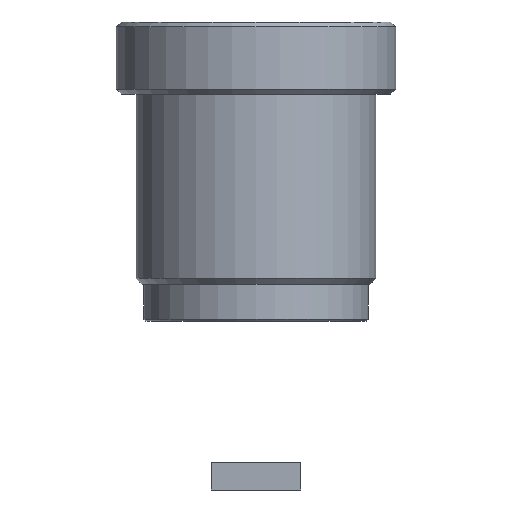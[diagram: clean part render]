
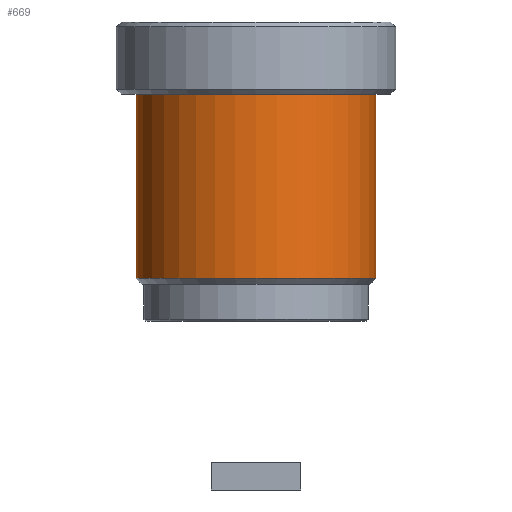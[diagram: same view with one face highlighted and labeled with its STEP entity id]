
A CAD part, front view. The second image highlights one B-rep face of the part: STEP entity #669.
In plain terms, the highlighted cylindrical face has radius 6 mm (diameter 12 mm), a partial arc.
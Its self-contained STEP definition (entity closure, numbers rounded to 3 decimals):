
#14 = VECTOR ( 'NONE', #943, 1000. ) ;
#21 = VERTEX_POINT ( 'NONE', #433 ) ;
#48 = CIRCLE ( 'NONE', #579, 6. ) ;
#95 = CARTESIAN_POINT ( 'NONE',  ( -6., 0., 11.38 ) ) ;
#97 = AXIS2_PLACEMENT_3D ( 'NONE', #908, #479, #779 ) ;
#124 = EDGE_CURVE ( 'NONE', #395, #658, #491, .T. ) ;
#185 = LINE ( 'NONE', #435, #312 ) ;
#191 = EDGE_LOOP ( 'NONE', ( #794, #419, #888, #597 ) ) ;
#230 = CARTESIAN_POINT ( 'NONE',  ( 0., 0., 11.38 ) ) ;
#264 = AXIS2_PLACEMENT_3D ( 'NONE', #230, #531, #825 ) ;
#268 = VERTEX_POINT ( 'NONE', #830 ) ;
#273 = EDGE_CURVE ( 'NONE', #21, #658, #411, .T. ) ;
#312 = VECTOR ( 'NONE', #450, 1000. ) ;
#362 = FACE_OUTER_BOUND ( 'NONE', #191, .T. ) ;
#376 = CARTESIAN_POINT ( 'NONE',  ( -6., 0., -10.271 ) ) ;
#395 = VERTEX_POINT ( 'NONE', #784 ) ;
#411 = CIRCLE ( 'NONE', #264, 6. ) ;
#419 = ORIENTED_EDGE ( 'NONE', *, *, #707, .T. ) ;
#421 = DIRECTION ( 'NONE',  ( 0., 0., 1. ) ) ;
#429 = CARTESIAN_POINT ( 'NONE',  ( 0., 0., 2.15 ) ) ;
#433 = CARTESIAN_POINT ( 'NONE',  ( 6., 0., 11.38 ) ) ;
#435 = CARTESIAN_POINT ( 'NONE',  ( 6., 0., -10.271 ) ) ;
#450 = DIRECTION ( 'NONE',  ( 0., 0., 1. ) ) ;
#479 = DIRECTION ( 'NONE',  ( 0., 0., 1. ) ) ;
#491 = LINE ( 'NONE', #376, #14 ) ;
#520 = CYLINDRICAL_SURFACE ( 'NONE', #97, 6. ) ;
#531 = DIRECTION ( 'NONE',  ( 0., 0., -1. ) ) ;
#564 = DIRECTION ( 'NONE',  ( 1., 0., 0. ) ) ;
#579 = AXIS2_PLACEMENT_3D ( 'NONE', #429, #421, #564 ) ;
#597 = ORIENTED_EDGE ( 'NONE', *, *, #273, .T. ) ;
#658 = VERTEX_POINT ( 'NONE', #95 ) ;
#669 = ADVANCED_FACE ( 'NONE', ( #362 ), #520, .T. ) ;
#707 = EDGE_CURVE ( 'NONE', #395, #268, #48, .T. ) ;
#779 = DIRECTION ( 'NONE',  ( 1., 0., 0. ) ) ;
#784 = CARTESIAN_POINT ( 'NONE',  ( -6., 0., 2.15 ) ) ;
#794 = ORIENTED_EDGE ( 'NONE', *, *, #124, .F. ) ;
#813 = EDGE_CURVE ( 'NONE', #268, #21, #185, .T. ) ;
#825 = DIRECTION ( 'NONE',  ( 1., 0., 0. ) ) ;
#830 = CARTESIAN_POINT ( 'NONE',  ( 6., 0., 2.15 ) ) ;
#888 = ORIENTED_EDGE ( 'NONE', *, *, #813, .T. ) ;
#908 = CARTESIAN_POINT ( 'NONE',  ( 0., 0., -10.271 ) ) ;
#943 = DIRECTION ( 'NONE',  ( 0., 0., 1. ) ) ;
